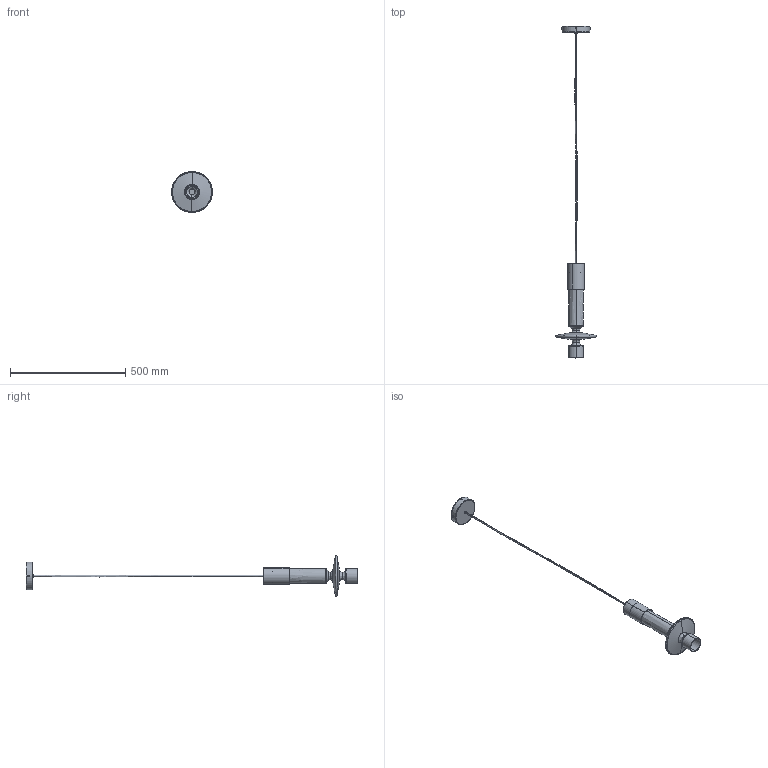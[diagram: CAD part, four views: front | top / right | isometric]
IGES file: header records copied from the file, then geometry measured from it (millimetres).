
Start section: SolidWorks IGES file using analytic representation for surfaces
Global section: file name: G:\Drive condivisi\Ufficio Tecnico\Research\X21 Filamento\Progetto\ATC-X21-S6 Sop. Vert\Architetti\Filamento Vertical 41, Shape 2.IGS; native system: SolidWorks 2025; preprocessor: SolidWorks 2025; author: Tecnico01; date: 260430.113303; units: millimetre
Bounding box: 176.96 x 1442 x 177 mm (x, y, z)
Surface area: 361103 mm2 (no closed solid volume)
Topology: 0 solids, 0 shells, 242 faces, 3768 edges, 3764 vertices
Faces by surface type: revolution 127, bspline 115
